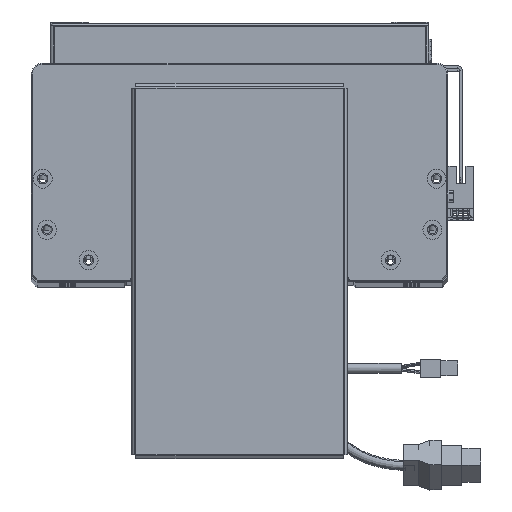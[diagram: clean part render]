
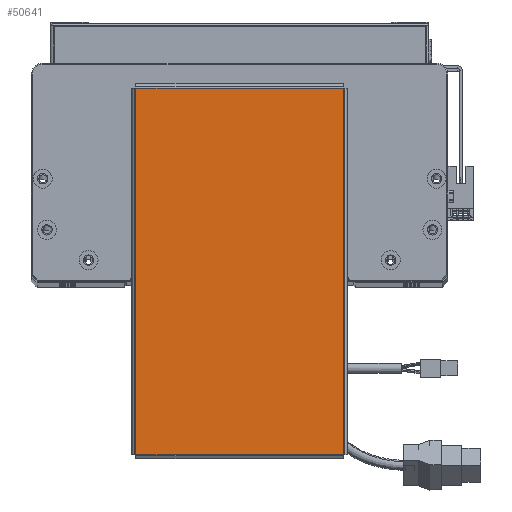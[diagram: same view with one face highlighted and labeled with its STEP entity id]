
A CAD part, top view. The second image highlights one B-rep face of the part: STEP entity #50641.
In plain terms, the highlighted planar face has unit normal (0, 0, 1).
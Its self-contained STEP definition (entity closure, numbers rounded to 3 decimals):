
#2246 = DIRECTION ( 'NONE',  ( 1., 0., 0. ) ) ;
#4138 = EDGE_CURVE ( 'NONE', #29416, #43592, #44182, .T. ) ;
#4993 = CARTESIAN_POINT ( 'NONE',  ( -96.763, 54.793, 0. ) ) ;
#5769 = CARTESIAN_POINT ( 'NONE',  ( 96.793, 54.763, 0. ) ) ;
#7871 = CARTESIAN_POINT ( 'NONE',  ( 96.763, -54.793, 0. ) ) ;
#9290 = DIRECTION ( 'NONE',  ( 0., 0., 1. ) ) ;
#10976 = EDGE_CURVE ( 'NONE', #59034, #29416, #32783, .T. ) ;
#11189 = ORIENTED_EDGE ( 'NONE', *, *, #4138, .T. ) ;
#12994 = CARTESIAN_POINT ( 'NONE',  ( -96.793, -54.763, 0. ) ) ;
#13175 = CARTESIAN_POINT ( 'NONE',  ( -96.763, -54.763, 0. ) ) ;
#13232 = EDGE_CURVE ( 'NONE', #15468, #59034, #19544, .T. ) ;
#14207 = LINE ( 'NONE', #4993, #55981 ) ;
#15175 = FACE_OUTER_BOUND ( 'NONE', #45298, .T. ) ;
#15468 = VERTEX_POINT ( 'NONE', #13175 ) ;
#17946 = DIRECTION ( 'NONE',  ( 0., 1., 0. ) ) ;
#19544 = LINE ( 'NONE', #12994, #48123 ) ;
#19650 = VECTOR ( 'NONE', #42319, 1000. ) ;
#29416 = VERTEX_POINT ( 'NONE', #52656 ) ;
#29582 = ORIENTED_EDGE ( 'NONE', *, *, #13232, .T. ) ;
#30279 = PLANE ( 'NONE',  #30446 ) ;
#30446 = AXIS2_PLACEMENT_3D ( 'NONE', #40343, #9290, #61023 ) ;
#32783 = LINE ( 'NONE', #7871, #59082 ) ;
#39276 = ORIENTED_EDGE ( 'NONE', *, *, #10976, .T. ) ;
#40343 = CARTESIAN_POINT ( 'NONE',  ( 0., 0., 0. ) ) ;
#42319 = DIRECTION ( 'NONE',  ( -1., 0., 0. ) ) ;
#43592 = VERTEX_POINT ( 'NONE', #58978 ) ;
#44182 = LINE ( 'NONE', #5769, #19650 ) ;
#45298 = EDGE_LOOP ( 'NONE', ( #29582, #39276, #11189, #63419 ) ) ;
#48123 = VECTOR ( 'NONE', #2246, 1000. ) ;
#50641 = ADVANCED_FACE ( 'NONE', ( #15175 ), #30279, .T. ) ;
#50668 = CARTESIAN_POINT ( 'NONE',  ( 96.763, -54.763, 0. ) ) ;
#52656 = CARTESIAN_POINT ( 'NONE',  ( 96.763, 54.763, 0. ) ) ;
#55392 = EDGE_CURVE ( 'NONE', #43592, #15468, #14207, .T. ) ;
#55981 = VECTOR ( 'NONE', #63334, 1000. ) ;
#58978 = CARTESIAN_POINT ( 'NONE',  ( -96.763, 54.763, 0. ) ) ;
#59034 = VERTEX_POINT ( 'NONE', #50668 ) ;
#59082 = VECTOR ( 'NONE', #17946, 1000. ) ;
#61023 = DIRECTION ( 'NONE',  ( 1., 0., 0. ) ) ;
#63334 = DIRECTION ( 'NONE',  ( 0., -1., 0. ) ) ;
#63419 = ORIENTED_EDGE ( 'NONE', *, *, #55392, .T. ) ;
